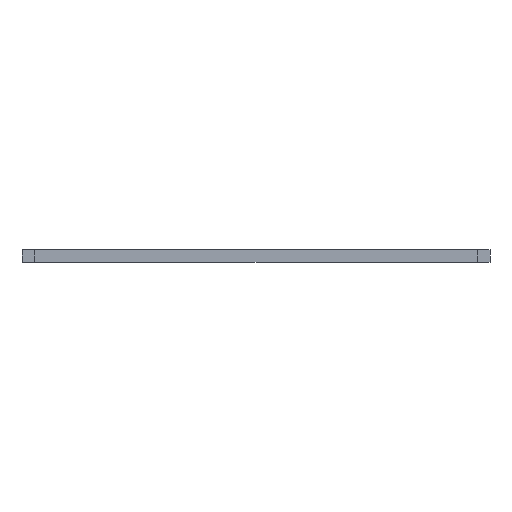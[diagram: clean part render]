
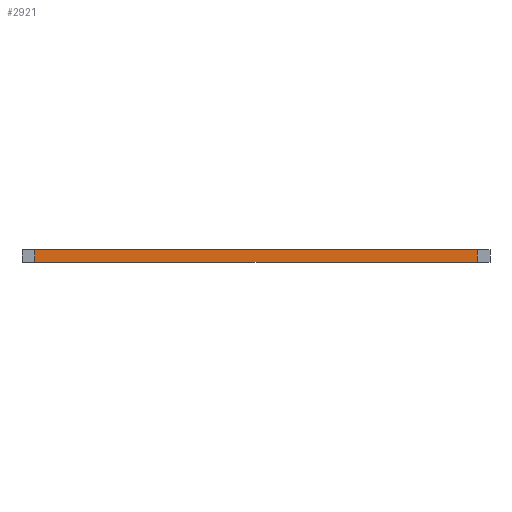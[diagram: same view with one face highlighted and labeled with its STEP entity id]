
A CAD part, front view. The second image highlights one B-rep face of the part: STEP entity #2921.
In plain terms, the highlighted planar face has unit normal (0, -1, 0).
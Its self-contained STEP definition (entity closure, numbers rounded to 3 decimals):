
#91=PLANE('',#3159);
#336=LINE('',#4650,#612);
#338=LINE('',#4654,#614);
#339=LINE('',#4656,#615);
#340=LINE('',#4658,#616);
#612=VECTOR('',#3836,1000.);
#614=VECTOR('',#3840,1000.);
#615=VECTOR('',#3841,1000.);
#616=VECTOR('',#3842,1000.);
#1058=ORIENTED_EDGE('',*,*,#1744,.T.);
#1059=ORIENTED_EDGE('',*,*,#1742,.F.);
#1060=ORIENTED_EDGE('',*,*,#1745,.F.);
#1061=ORIENTED_EDGE('',*,*,#1746,.T.);
#1742=EDGE_CURVE('',#2042,#2043,#336,.T.);
#1744=EDGE_CURVE('',#2044,#2043,#338,.T.);
#1745=EDGE_CURVE('',#2045,#2042,#339,.T.);
#1746=EDGE_CURVE('',#2045,#2044,#340,.T.);
#2042=VERTEX_POINT('',#4649);
#2043=VERTEX_POINT('',#4651);
#2044=VERTEX_POINT('',#4655);
#2045=VERTEX_POINT('',#4657);
#2347=EDGE_LOOP('',(#1058,#1059,#1060,#1061));
#2619=FACE_BOUND('',#2347,.T.);
#2921=ADVANCED_FACE('',(#2619),#91,.F.);
#3159=AXIS2_PLACEMENT_3D('',#4653,#3838,#3839);
#3836=DIRECTION('',(0.,0.,1.));
#3838=DIRECTION('',(0.,1.,0.));
#3839=DIRECTION('',(-1.,0.,0.));
#3840=DIRECTION('',(-1.,0.,0.));
#3841=DIRECTION('',(-1.,0.,0.));
#3842=DIRECTION('',(0.,0.,1.));
#4649=CARTESIAN_POINT('',(-52.5,-50.,-3.));
#4650=CARTESIAN_POINT('',(-52.5,-50.,-3.));
#4651=CARTESIAN_POINT('',(-52.5,-50.,0.));
#4653=CARTESIAN_POINT('',(52.5,-50.,-3.));
#4654=CARTESIAN_POINT('',(52.5,-50.,0.));
#4655=CARTESIAN_POINT('',(52.5,-50.,0.));
#4656=CARTESIAN_POINT('',(52.5,-50.,-3.));
#4657=CARTESIAN_POINT('',(52.5,-50.,-3.));
#4658=CARTESIAN_POINT('',(52.5,-50.,-3.));
